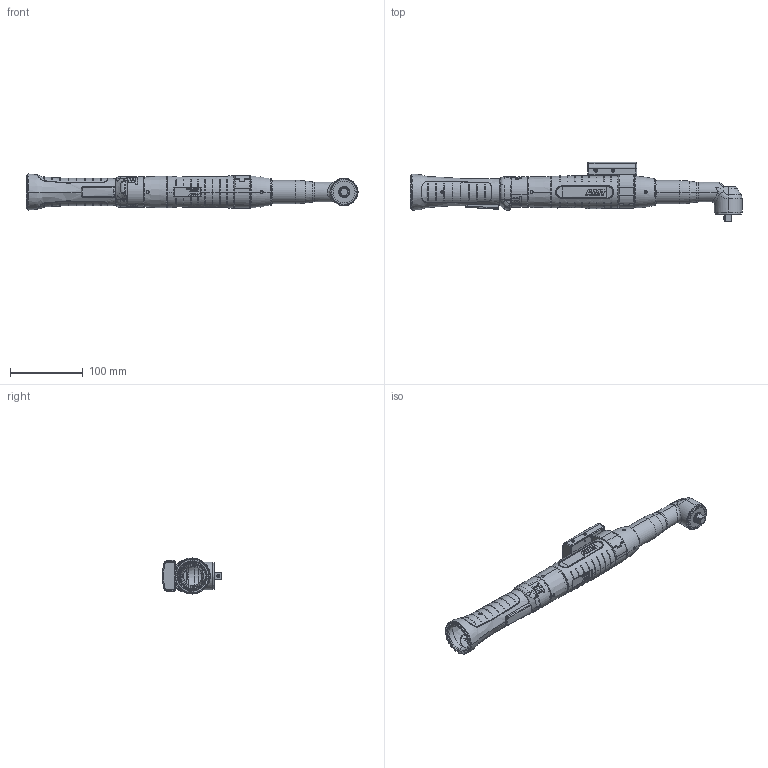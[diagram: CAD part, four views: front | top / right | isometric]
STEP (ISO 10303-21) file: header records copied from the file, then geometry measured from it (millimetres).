
FILE_DESCRIPTION (( 'STEP AP214' ), '1' );
FILE_NAME ('7900281_HCX1050WV38_GyroFlex.STEP', '2012-02-07T16:12:25', ( ' ' ), ( '' ), 'SwSTEP 2.0', 'SolidWorks 2009', '' );
FILE_SCHEMA (( 'AUTOMOTIVE_DESIGN' ));
Length unit declared in the file: millimetre
Products named in the file (1): 7900281_HCX1050WV38_GyroFlex
Bounding box: 455.7 x 81.2 x 49.46 mm (x, y, z)
Surface area: 86371.2 mm2 (no closed solid volume)
Topology: 0 solids, 47 shells, 1166 faces, 4068 edges, 2811 vertices
Faces by surface type: cylinder 295, plane 293, torus 268, bspline 222, cone 61, sphere 27
Entity records: 72787 total; most frequent: CARTESIAN_POINT 28032, ORIENTED_EDGE 6377, DIRECTION 6355, EDGE_CURVE 4033, VERTEX_POINT 2794, AXIS2_PLACEMENT_3D 2626, CIRCLE 1684, EDGE_LOOP 1294
